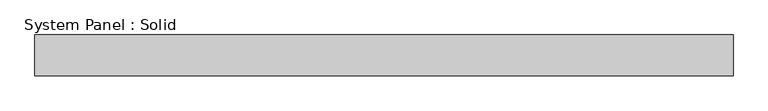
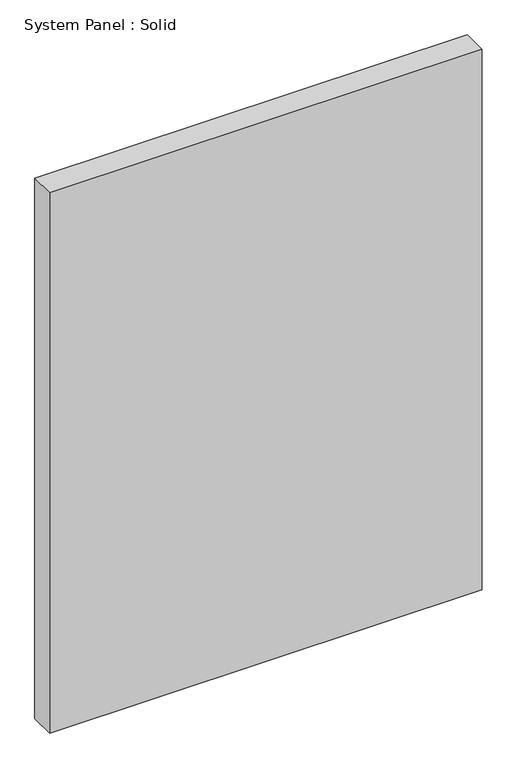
"""IFC4 building model written with IfcOpenShell, lengths in millimetres: plate geometry, System Panel : Solid."""

from ifc_helpers import new_model, si_unit, origin, origin_with_axes, place, context, project, spatial, polyline, outline, extrude, source, transform, mapped, element, save


def system_panel_solid_4c0a9ef3(model_context):
    return source(origin(), model_context, "Body", "SweptSolid", [
        extrude(outline(polyline([(541.3375001, -44.45), (-541.3375001, -44.45), (-541.3375001, 19.05), (541.3375001, 19.05), (541.3375001, -44.45)])), origin_with_axes(), (0.0, 0.0, 1.0), 1428.75),
    ])


if __name__ == "__main__":
    model = new_model("IFC4")
    model_context = context("Model", 3, world=origin())
    ifc_project = project(units=[si_unit("LENGTHUNIT", "METRE", prefix="MILLI")], contexts=[model_context])
    site = spatial("IfcSite", under=ifc_project)
    building = spatial("IfcBuilding", under=site)
    placement = place(None, origin())
    system_panel_solid_shape = system_panel_solid_4c0a9ef3(model_context)
    element("IfcPlate", 1, ObjectType="System Panel : Solid", at=placement, inside=building, context=model_context, shape_type="MappedRepresentation", body=[
        mapped(system_panel_solid_shape, transform((0.0, 0.0, 0.0), x_axis=(1.0, 0.0, 0.0), y_axis=(0.0, 1.0, 0.0), z_axis=(0.0, 0.0, 1.0))),
    ])
    save(model, "model.ifc")
